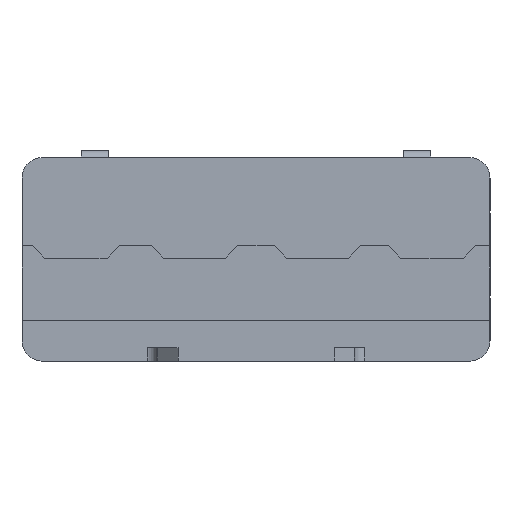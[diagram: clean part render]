
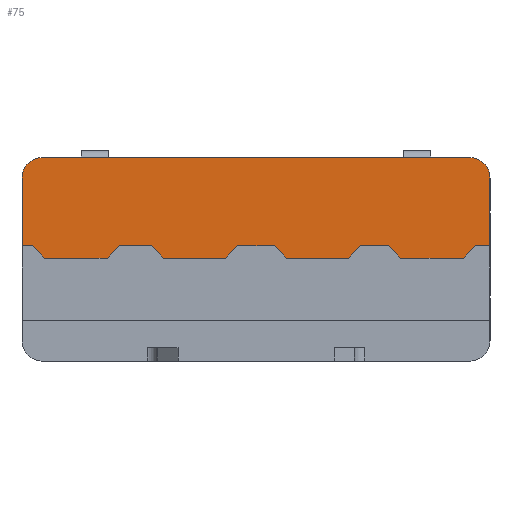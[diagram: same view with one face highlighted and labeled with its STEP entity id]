
A CAD part, left-side view. The second image highlights one B-rep face of the part: STEP entity #75.
In plain terms, the highlighted planar face has unit normal (-1, 0, 0).
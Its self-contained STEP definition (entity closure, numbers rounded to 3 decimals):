
#75=ADVANCED_FACE('',(#909),#910,.F.);
#909=FACE_OUTER_BOUND('',#2572,.T.);
#910=PLANE('',#2573);
#2572=EDGE_LOOP('',(#5022,#5023,#5024,#5025,#5026,#5027,#5028,#5029,#5030,#5031,#5032,#5033,#5034,#5035,#5036,#5037,#5038,#5039,#5040,#5041,#5042,#5043));
#2573=AXIS2_PLACEMENT_3D('',#5044,#5045,#5046);
#5022=ORIENTED_EDGE('',*,*,#11880,.F.);
#5023=ORIENTED_EDGE('',*,*,#11881,.F.);
#5024=ORIENTED_EDGE('',*,*,#11882,.F.);
#5025=ORIENTED_EDGE('',*,*,#11883,.T.);
#5026=ORIENTED_EDGE('',*,*,#11884,.F.);
#5027=ORIENTED_EDGE('',*,*,#11885,.F.);
#5028=ORIENTED_EDGE('',*,*,#11886,.F.);
#5029=ORIENTED_EDGE('',*,*,#11887,.T.);
#5030=ORIENTED_EDGE('',*,*,#11888,.F.);
#5031=ORIENTED_EDGE('',*,*,#11889,.F.);
#5032=ORIENTED_EDGE('',*,*,#11890,.F.);
#5033=ORIENTED_EDGE('',*,*,#11891,.T.);
#5034=ORIENTED_EDGE('',*,*,#11892,.F.);
#5035=ORIENTED_EDGE('',*,*,#11893,.F.);
#5036=ORIENTED_EDGE('',*,*,#11384,.F.);
#5037=ORIENTED_EDGE('',*,*,#11894,.F.);
#5038=ORIENTED_EDGE('',*,*,#11895,.T.);
#5039=ORIENTED_EDGE('',*,*,#11896,.T.);
#5040=ORIENTED_EDGE('',*,*,#11897,.F.);
#5041=ORIENTED_EDGE('',*,*,#11898,.F.);
#5042=ORIENTED_EDGE('',*,*,#11899,.F.);
#5043=ORIENTED_EDGE('',*,*,#11900,.T.);
#5044=CARTESIAN_POINT('',(-11.5,4.0,0.813));
#5045=DIRECTION('',(1.0,0.0,0.0));
#5046=DIRECTION('',(0.0,1.0,0.0));
#11384=EDGE_CURVE('',#14194,#14189,#14196,.T.);
#11880=EDGE_CURVE('',#15186,#15187,#15188,.T.);
#11881=EDGE_CURVE('',#15189,#15186,#15190,.T.);
#11882=EDGE_CURVE('',#15191,#15189,#15192,.T.);
#11883=EDGE_CURVE('',#15191,#15193,#15194,.T.);
#11884=EDGE_CURVE('',#15195,#15193,#15196,.T.);
#11885=EDGE_CURVE('',#15197,#15195,#15198,.T.);
#11886=EDGE_CURVE('',#15199,#15197,#15200,.T.);
#11887=EDGE_CURVE('',#15199,#15201,#15202,.T.);
#11888=EDGE_CURVE('',#15203,#15201,#15204,.T.);
#11889=EDGE_CURVE('',#15205,#15203,#15206,.T.);
#11890=EDGE_CURVE('',#15207,#15205,#15208,.T.);
#11891=EDGE_CURVE('',#15207,#15209,#15210,.T.);
#11892=EDGE_CURVE('',#15211,#15209,#15212,.T.);
#11893=EDGE_CURVE('',#14189,#15211,#15213,.T.);
#11894=EDGE_CURVE('',#15214,#14194,#15215,.T.);
#11895=EDGE_CURVE('',#15214,#15216,#15217,.T.);
#11896=EDGE_CURVE('',#15216,#15218,#15219,.T.);
#11897=EDGE_CURVE('',#15220,#15218,#15221,.T.);
#11898=EDGE_CURVE('',#15222,#15220,#15223,.T.);
#11899=EDGE_CURVE('',#15224,#15222,#15225,.T.);
#11900=EDGE_CURVE('',#15224,#15187,#15226,.T.);
#14189=VERTEX_POINT('',#18117);
#14194=VERTEX_POINT('',#18124);
#14196=LINE('',#18127,#18128);
#15186=VERTEX_POINT('',#19605);
#15187=VERTEX_POINT('',#19606);
#15188=LINE('',#19607,#19608);
#15189=VERTEX_POINT('',#19609);
#15190=LINE('',#19610,#19611);
#15191=VERTEX_POINT('',#19612);
#15192=LINE('',#19613,#19614);
#15193=VERTEX_POINT('',#19615);
#15194=LINE('',#19616,#19617);
#15195=VERTEX_POINT('',#19618);
#15196=LINE('',#19619,#19620);
#15197=VERTEX_POINT('',#19621);
#15198=LINE('',#19622,#19623);
#15199=VERTEX_POINT('',#19624);
#15200=LINE('',#19625,#19626);
#15201=VERTEX_POINT('',#19627);
#15202=LINE('',#19628,#19629);
#15203=VERTEX_POINT('',#19630);
#15204=LINE('',#19631,#19632);
#15205=VERTEX_POINT('',#19633);
#15206=LINE('',#19634,#19635);
#15207=VERTEX_POINT('',#19636);
#15208=LINE('',#19637,#19638);
#15209=VERTEX_POINT('',#19639);
#15210=LINE('',#19640,#19641);
#15211=VERTEX_POINT('',#19642);
#15212=LINE('',#19643,#19644);
#15213=CIRCLE('',#19645,0.3);
#15214=VERTEX_POINT('',#19646);
#15215=CIRCLE('',#19647,0.3);
#15216=VERTEX_POINT('',#19648);
#15217=LINE('',#19649,#19650);
#15218=VERTEX_POINT('',#19651);
#15219=LINE('',#19652,#19653);
#15220=VERTEX_POINT('',#19654);
#15221=LINE('',#19655,#19656);
#15222=VERTEX_POINT('',#19657);
#15223=LINE('',#19658,#19659);
#15224=VERTEX_POINT('',#19660);
#15225=LINE('',#19661,#19662);
#15226=LINE('',#19663,#19664);
#18117=CARTESIAN_POINT('',(-11.5,-3.15,0.6));
#18124=CARTESIAN_POINT('',(-11.5,3.15,0.6));
#18127=CARTESIAN_POINT('',(-11.5,3.15,0.6));
#18128=VECTOR('',#24122,6.3);
#19605=CARTESIAN_POINT('',(-11.5,1.364,-0.88));
#19606=CARTESIAN_POINT('',(-11.5,1.544,-0.7));
#19607=CARTESIAN_POINT('',(-11.5,1.364,-0.88));
#19608=VECTOR('',#24634,0.255);
#19609=CARTESIAN_POINT('',(-11.5,0.446,-0.88));
#19610=CARTESIAN_POINT('',(-11.5,0.446,-0.88));
#19611=VECTOR('',#24635,0.917);
#19612=CARTESIAN_POINT('',(-11.5,0.266,-0.7));
#19613=CARTESIAN_POINT('',(-11.5,0.266,-0.7));
#19614=VECTOR('',#24636,0.255);
#19615=CARTESIAN_POINT('',(-11.5,-0.266,-0.7));
#19616=CARTESIAN_POINT('',(-11.5,0.266,-0.7));
#19617=VECTOR('',#24637,0.533);
#19618=CARTESIAN_POINT('',(-11.5,-0.446,-0.88));
#19619=CARTESIAN_POINT('',(-11.5,-0.446,-0.88));
#19620=VECTOR('',#24638,0.255);
#19621=CARTESIAN_POINT('',(-11.5,-1.364,-0.88));
#19622=CARTESIAN_POINT('',(-11.5,-1.364,-0.88));
#19623=VECTOR('',#24639,0.917);
#19624=CARTESIAN_POINT('',(-11.5,-1.544,-0.7));
#19625=CARTESIAN_POINT('',(-11.5,-1.544,-0.7));
#19626=VECTOR('',#24640,0.255);
#19627=CARTESIAN_POINT('',(-11.5,-1.956,-0.7));
#19628=CARTESIAN_POINT('',(-11.5,-1.544,-0.7));
#19629=VECTOR('',#24641,0.413);
#19630=CARTESIAN_POINT('',(-11.5,-2.136,-0.88));
#19631=CARTESIAN_POINT('',(-11.5,-2.136,-0.88));
#19632=VECTOR('',#24642,0.255);
#19633=CARTESIAN_POINT('',(-11.5,-3.054,-0.88));
#19634=CARTESIAN_POINT('',(-11.5,-3.054,-0.88));
#19635=VECTOR('',#24643,0.917);
#19636=CARTESIAN_POINT('',(-11.5,-3.234,-0.7));
#19637=CARTESIAN_POINT('',(-11.5,-3.234,-0.7));
#19638=VECTOR('',#24644,0.255);
#19639=CARTESIAN_POINT('',(-11.5,-3.45,-0.7));
#19640=CARTESIAN_POINT('',(-11.5,-3.234,-0.7));
#19641=VECTOR('',#24645,0.216);
#19642=CARTESIAN_POINT('',(-11.5,-3.45,0.3));
#19643=CARTESIAN_POINT('',(-11.5,-3.45,0.3));
#19644=VECTOR('',#24646,1.);
#19645=AXIS2_PLACEMENT_3D('',#24647,#24648,#24649);
#19646=CARTESIAN_POINT('',(-11.5,3.45,0.3));
#19647=AXIS2_PLACEMENT_3D('',#24650,#24651,#24652);
#19648=CARTESIAN_POINT('',(-11.5,3.45,-0.7));
#19649=CARTESIAN_POINT('',(-11.5,3.45,0.3));
#19650=VECTOR('',#24653,1.);
#19651=CARTESIAN_POINT('',(-11.5,3.294,-0.7));
#19652=CARTESIAN_POINT('',(-11.5,3.45,-0.7));
#19653=VECTOR('',#24654,0.156);
#19654=CARTESIAN_POINT('',(-11.5,3.114,-0.88));
#19655=CARTESIAN_POINT('',(-11.5,3.114,-0.88));
#19656=VECTOR('',#24655,0.255);
#19657=CARTESIAN_POINT('',(-11.5,2.196,-0.88));
#19658=CARTESIAN_POINT('',(-11.5,2.196,-0.88));
#19659=VECTOR('',#24656,0.917);
#19660=CARTESIAN_POINT('',(-11.5,2.016,-0.7));
#19661=CARTESIAN_POINT('',(-11.5,2.016,-0.7));
#19662=VECTOR('',#24657,0.255);
#19663=CARTESIAN_POINT('',(-11.5,2.016,-0.7));
#19664=VECTOR('',#24658,0.473);
#24122=DIRECTION('',(0.0,-1.0,0.0));
#24634=DIRECTION('',(0.0,0.707,0.707));
#24635=DIRECTION('',(0.0,1.0,0.0));
#24636=DIRECTION('',(0.0,0.707,-0.707));
#24637=DIRECTION('',(0.0,-1.0,0.0));
#24638=DIRECTION('',(0.0,0.707,0.707));
#24639=DIRECTION('',(0.0,1.0,0.0));
#24640=DIRECTION('',(0.0,0.707,-0.707));
#24641=DIRECTION('',(0.0,-1.0,0.0));
#24642=DIRECTION('',(0.0,0.707,0.707));
#24643=DIRECTION('',(0.0,1.0,0.0));
#24644=DIRECTION('',(0.0,0.707,-0.707));
#24645=DIRECTION('',(0.0,-1.0,0.0));
#24646=DIRECTION('',(0.0,0.0,-1.0));
#24647=CARTESIAN_POINT('',(-11.5,-3.15,0.3));
#24648=DIRECTION('',(1.0,0.0,-0.0));
#24649=DIRECTION('',(0.0,0.0,1.0));
#24650=CARTESIAN_POINT('',(-11.5,3.15,0.3));
#24651=DIRECTION('',(1.0,0.0,0.0));
#24652=DIRECTION('',(0.0,1.0,0.));
#24653=DIRECTION('',(0.0,0.0,-1.0));
#24654=DIRECTION('',(0.0,-1.0,0.0));
#24655=DIRECTION('',(0.0,0.707,0.707));
#24656=DIRECTION('',(0.0,1.0,0.0));
#24657=DIRECTION('',(0.0,0.707,-0.707));
#24658=DIRECTION('',(0.0,-1.0,0.0));
